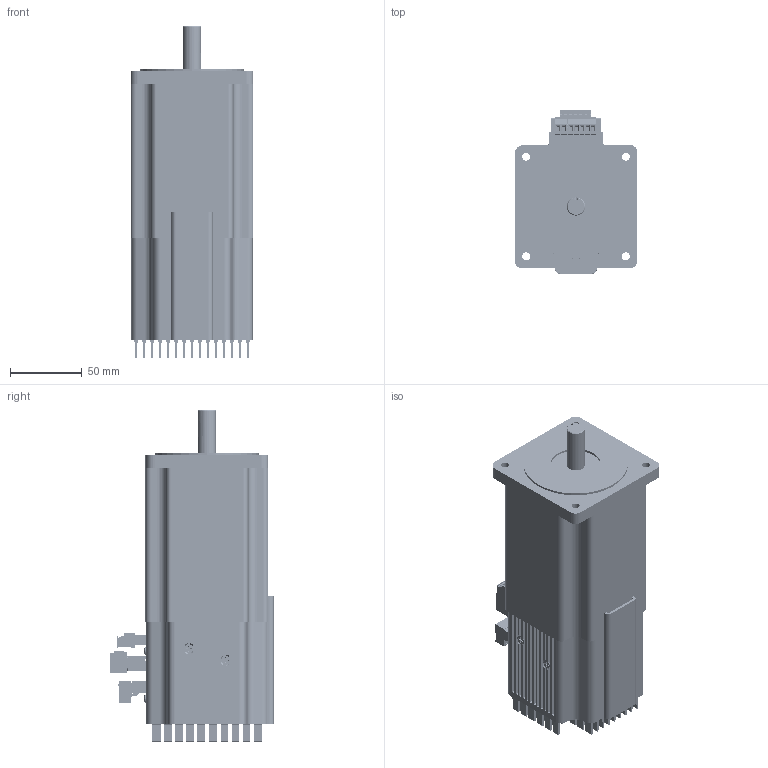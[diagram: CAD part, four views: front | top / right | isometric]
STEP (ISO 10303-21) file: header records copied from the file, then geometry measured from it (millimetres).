
FILE_DESCRIPTION(('HOOPS Exchange Step'),'2;1');
FILE_NAME('C:\Users\d_lab\AppData\Local\Temp\Alibre Design\export-07F2993C-E03A-4DE4-8522-BE408D077810.stp','2021-09-23T10:46:17-07:00',('d_lab'),('Alibre'),'HOOPS Exchange 2021.0','Alibre','Unknown authorisation');
FILE_SCHEMA( ('AP242_MANAGED_MODEL_BASED_3D_ENGINEERING_MIM_LF {1 0 10303 442 1 1 4 }') );
Length unit declared in the file: centimetre
Products named in the file (45): Front Mount; Laminate; BackHousing; HC-1_Shaft; 34HC-2; QDR-36-xxxx-00 34 XT Housing Extrusion; QDR-36-2242-02 34 HC Power Heatsink; mcv_1.5-2-g-3.81_2; 2pin_mcv_1.5-2-g-3.81; mcvr_1.5-2-st-3.81_2; mcvr_1.5-2-st-3.81; 2-pin_removealbe_header_and_socket_-_Assembly; P3; mcv_1.5-5-g-3.81_2; mcv_1.5-5-g-3.81; mcvr_1.5-5-st-3.81_2; mcvr_1.5-5-st-3.81; 5-pin_removealbe_header_and_socket_-_Assembly; P4; 12-pin_pluggable_socket_OSTVW1210X0; 12-pin_pluggable_header_F83A-BT-; 12-pin_pluggable_header_and_socket_-_Assemmbly; P2; PRTOQ38124P_AF0; OQ-5002A1_; OQ-5002A1__AF0; 1_AF0; ASMOQ381024P_AF0_ASM; PRTOQ38124P_AF1; OQ-5002A1__AF1; 1_AF1; ASMOQ381024P_AF1_ASM; OSTOQ053250_RGB65280; OSTOQ023250_RGB65280; Free-Models; 4-40x0.250_screw__91772A106; Comm IO connector; LMC-020-CTP_red; LMC-020-CTP_green; 7-pin-socket-no-flange_TBP01P1-508-07BE_pwr2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
Assembly tree (58 placements, depth 6):
  QCI-XT34HC-2 (simple model)
    34HC-2
      Front Mount
      Laminate
      BackHousing
      HC-1_Shaft
    QDR-36-xxxx-00 34 XT Housing Extrusion
    QDR-36-2242-02 34 HC Power Heatsink
    Comm IO connector
      P3
        2-pin_removealbe_header_and_socket_-_Assembly
          2pin_mcv_1.5-2-g-3.81
            mcv_1.5-2-g-3.81_2
          mcvr_1.5-2-st-3.81
            mcvr_1.5-2-st-3.81_2
      P4
        5-pin_removealbe_header_and_socket_-_Assembly
          mcv_1.5-5-g-3.81
            mcv_1.5-5-g-3.81_2
          mcvr_1.5-5-st-3.81
            mcvr_1.5-5-st-3.81_2
      P2
        12-pin_pluggable_header_and_socket_-_Assemmbly
          12-pin_pluggable_socket_OSTVW1210X0
          12-pin_pluggable_header_F83A-BT-
      Free-Models
        OSTOQ053250_RGB65280
          ASMOQ381024P_AF0_ASM
            PRTOQ38124P_AF0
            OQ-5002A1_  x2
            OQ-5002A1__AF0
            1_AF0
          ASMOQ381024P_AF1_ASM
            PRTOQ38124P_AF1
            OQ-5002A1__AF1
            OQ-5002A1_  x2
            1_AF1
        OSTOQ023250_RGB65280
      4-40x0.250_screw__91772A106  x2
    LMC-020-CTP_red
    LMC-020-CTP_green  x2
    Power input connector
      7-pin-socket-no-flange_TBP01P1-508-07BE_pwr2
      4-40x0.250_screw__91772A106  x2
      P1_pwr
        7-pin-header-no-flange_TBP01R2-508-07BE_pwr1
    4-40 PHILIPS  x8
Bounding box: 85.85 x 114.1 x 231.91 mm (x, y, z)
Volume: 891089.3 mm3; surface area: 194842.6 mm2
Topology: 40 solids, 48 shells, 8477 faces, 23252 edges, 15123 vertices
Faces by surface type: plane 6124, cylinder 2013, cone 159, bspline 84, sphere 53, torus 44
Full cylindrical faces by diameter (mm): 0.483 x3, 2.156 x5, 2.54 x3, 2.616 x8, 2.718 x3, 3.175 x15, 3.962 x3, 4.089 x8, 5.537 x4, 9.525 x1, 12.7 x1, 34.798 x1, 73.025 x1
Entity records: 259878 total; most frequent: CARTESIAN_POINT 56329, ORIENTED_EDGE 42968, DIRECTION 40957, EDGE_CURVE 21484, VECTOR 16743, LINE 16743, VERTEX_POINT 13997, AXIS2_PLACEMENT_3D 12107
